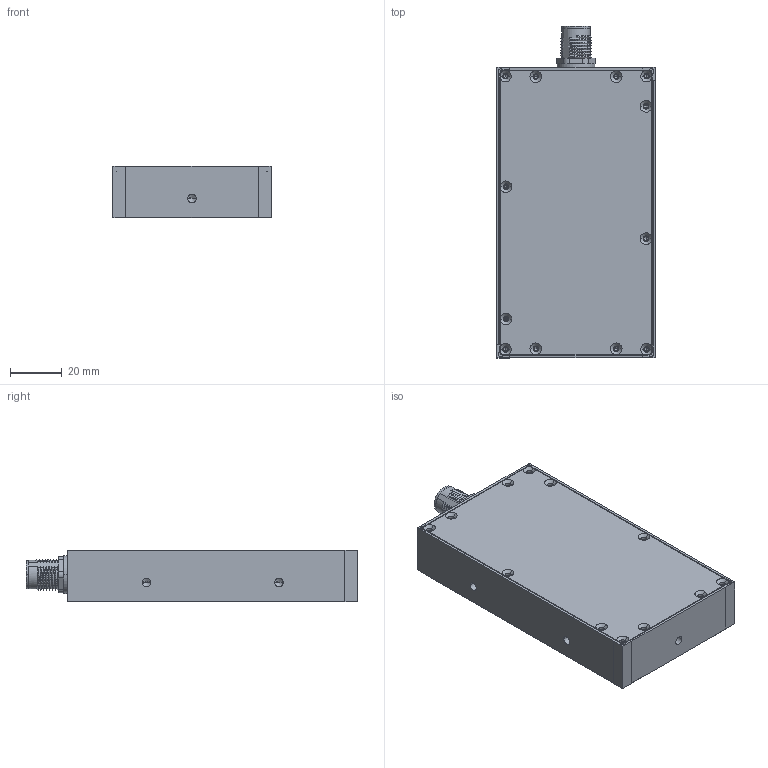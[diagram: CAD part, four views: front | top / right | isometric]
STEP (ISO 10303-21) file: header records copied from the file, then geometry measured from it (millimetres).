
FILE_DESCRIPTION (( 'STEP AP214' ), '1' );
FILE_NAME ('SBACK II 100x50.STEP', '2013-10-01T06:21:51', ( '' ), ( '' ), 'SwSTEP 2.0', 'SolidWorks 2013', '' );
FILE_SCHEMA (( 'AUTOMOTIVE_DESIGN' ));
Length unit declared in the file: millimetre
Products named in the file (10): 005993; EC-03-051-311; EC-03-051-105_50x100; EC-03-051-115; EC-03-051-100-PIE-DEV; Ecrou; SBACK II 100x50; Joint; EC-03-051-102-PE-DEV; connecteur M12
Assembly tree (11 placements, depth 2):
  SBACK II 100x50
    EC-03-051-115
    EC-03-051-311  x2
    EC-03-051-102-PE-DEV  x2
    EC-03-051-100-PIE-DEV
    EC-03-051-105_50x100
    005993
    connecteur M12
    Joint
    Ecrou
Bounding box: 61 x 128 x 20 mm (x, y, z)
Volume: 58404.2 mm3; surface area: 47482.3 mm2
Topology: 11 solids, 11 shells, 502 faces, 1310 edges, 805 vertices
Faces by surface type: cylinder 184, plane 160, cone 102, bspline 48, sphere 8
Entity records: 31764 total; most frequent: CARTESIAN_POINT 21169, ORIENTED_EDGE 2112, DIRECTION 1939, EDGE_CURVE 1056, AXIS2_PLACEMENT_3D 701, VERTEX_POINT 679, VECTOR 537, LINE 537
